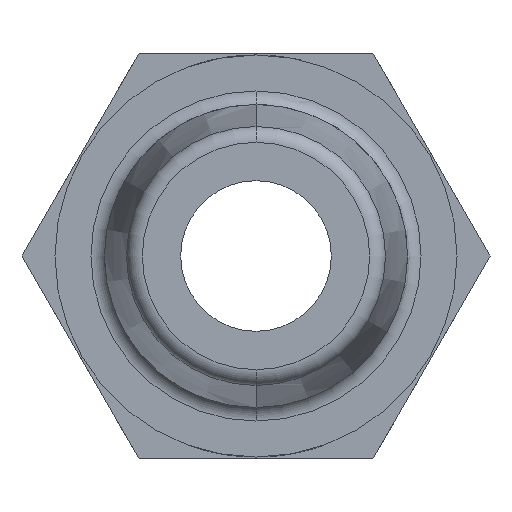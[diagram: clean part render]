
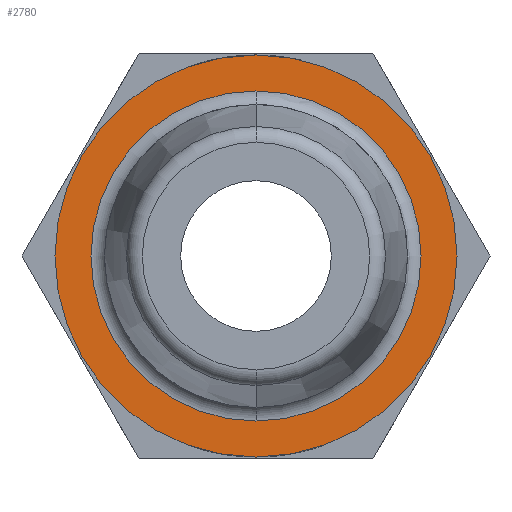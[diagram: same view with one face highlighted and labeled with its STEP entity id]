
A CAD part, left-side view. The second image highlights one B-rep face of the part: STEP entity #2780.
In plain terms, the highlighted planar face has unit normal (-1, 0, 0).
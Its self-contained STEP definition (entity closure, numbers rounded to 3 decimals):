
#58=FACE_BOUND('',#351,.T.);
#73=PLANE('',#3023);
#196=FACE_OUTER_BOUND('',#350,.T.);
#350=EDGE_LOOP('',(#2062,#2063));
#351=EDGE_LOOP('',(#2064,#2065));
#500=CIRCLE('',#2957,3.15);
#523=CIRCLE('',#2984,2.587);
#549=CIRCLE('',#3024,3.15);
#550=CIRCLE('',#3025,2.587);
#1190=VERTEX_POINT('',#4757);
#1191=VERTEX_POINT('',#4759);
#1249=VERTEX_POINT('',#5092);
#1250=VERTEX_POINT('',#5093);
#1490=EDGE_CURVE('',#1191,#1190,#500,.T.);
#1550=EDGE_CURVE('',#1249,#1250,#523,.T.);
#1595=EDGE_CURVE('',#1190,#1191,#549,.T.);
#1596=EDGE_CURVE('',#1250,#1249,#550,.T.);
#2062=ORIENTED_EDGE('',*,*,#1490,.T.);
#2063=ORIENTED_EDGE('',*,*,#1595,.T.);
#2064=ORIENTED_EDGE('',*,*,#1596,.T.);
#2065=ORIENTED_EDGE('',*,*,#1550,.T.);
#2780=ADVANCED_FACE('',(#196,#58),#73,.F.);
#2957=AXIS2_PLACEMENT_3D('',#4760,#3254,#3255);
#2984=AXIS2_PLACEMENT_3D('',#5094,#3331,#3332);
#3023=AXIS2_PLACEMENT_3D('',#5185,#3427,#3428);
#3024=AXIS2_PLACEMENT_3D('',#5186,#3429,#3430);
#3025=AXIS2_PLACEMENT_3D('',#5187,#3431,#3432);
#3254=DIRECTION('center_axis',(-1.,0.,0.));
#3255=DIRECTION('ref_axis',(0.,0.,1.));
#3331=DIRECTION('center_axis',(1.,0.,0.));
#3332=DIRECTION('ref_axis',(0.,0.,
1.));
#3427=DIRECTION('center_axis',(1.,0.,0.));
#3428=DIRECTION('ref_axis',(0.,0.,-1.));
#3429=DIRECTION('center_axis',(-1.,0.,0.));
#3430=DIRECTION('ref_axis',(0.,0.,
-1.));
#3431=DIRECTION('center_axis',(1.,0.,0.));
#3432=DIRECTION('ref_axis',(0.,0.,-1.));
#4757=CARTESIAN_POINT('',(-13.,0.,-3.15));
#4759=CARTESIAN_POINT('',(-13.,0.,3.15));
#4760=CARTESIAN_POINT('Origin',(-13.,0.,0.));
#5092=CARTESIAN_POINT('',(-13.,0.,2.587));
#5093=CARTESIAN_POINT('',(-13.,0.,-2.587));
#5094=CARTESIAN_POINT('Origin',(-13.,0.,0.));
#5185=CARTESIAN_POINT('Origin',(-13.,-3.188,0.));
#5186=CARTESIAN_POINT('Origin',(-13.,0.,0.));
#5187=CARTESIAN_POINT('Origin',(-13.,0.,0.));
